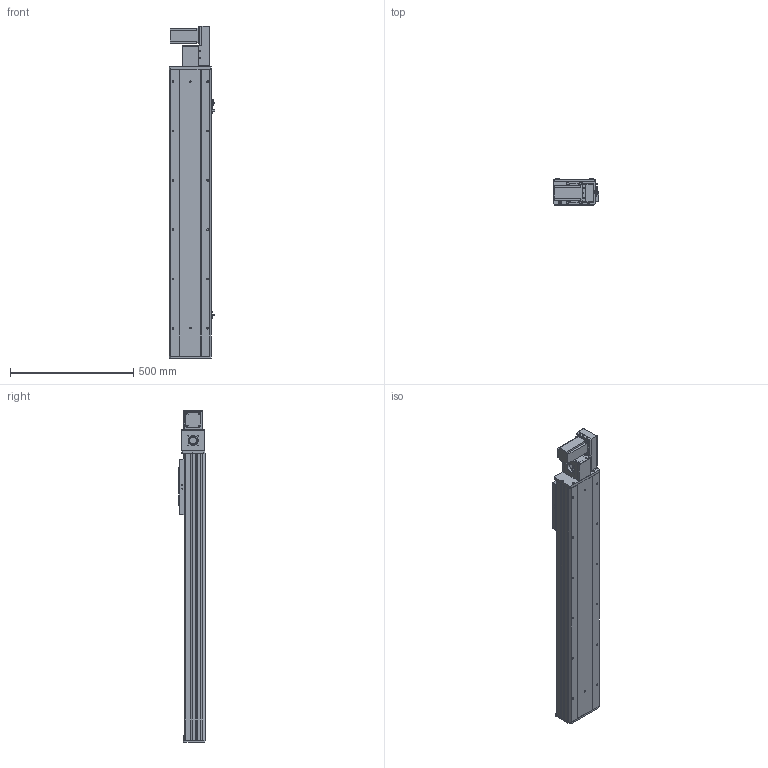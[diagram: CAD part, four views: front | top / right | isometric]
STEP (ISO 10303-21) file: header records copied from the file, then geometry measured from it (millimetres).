
FILE_DESCRIPTION (( 'STEP AP203' ), '1' );
FILE_NAME ('Y170CB-D105-S850-BR-P400W.STEP', '2020-02-19T09:04:21', ( '微软用户' ), ( '微软中国' ), 'SwSTEP 2.0', 'SolidWorks 2017', '' );
FILE_SCHEMA (( 'CONFIG_CONTROL_DESIGN' ));
Length unit declared in the file: millimetre
Products named in the file (17): 70B喘謫眊----; B-源倛裔啣; 17B-耜蚾蟀諉啣----; 0B-萇儂楊擘啣; san松下电机400不带刹车----; Y70俋欶BR----; 70CB-掛极-; --70CB --喘謫眊楊擘啣-; 70CB-耜裔啣-; 70C--詩湍揤踡え-; 70CB--耜裔; 70C-雄赽釱-奻-; 0C--雄赽釱俋欶-170; 70CB-詩湍--; Y100-135俋离換覜ん--; Y170CB-陔俋离換覜結え---; Y170CB-D105-S850-BR-P400W
Assembly tree (20 placements, depth 2):
  Y170CB-D105-S850-BR-P400W
    70B喘謫眊----
    B-源倛裔啣
    17B-耜蚾蟀諉啣----
    0B-萇儂楊擘啣
    san松下电机400不带刹车----
    Y70俋欶BR----
    70CB-掛极-
    --70CB --喘謫眊楊擘啣-
    70CB-耜裔啣-  x2
    70C--詩湍揤踡え-  x2
    70CB--耜裔
    70C-雄赽釱-奻-
    0C--雄赽釱俋欶-170
    70CB-詩湍--
    Y100-135俋离換覜ん--  x3
    Y170CB-陔俋离換覜結え---
Bounding box: 183.5 x 107 x 1347 mm (x, y, z)
Volume: 5942121.6 mm3; surface area: 2118531 mm2
Topology: 20 solids, 20 shells, 985 faces, 2633 edges, 1746 vertices
Faces by surface type: cylinder 499, plane 462, cone 24
Entity records: 31167 total; most frequent: CARTESIAN_POINT 5721, DIRECTION 5068, ORIENTED_EDGE 4748, EDGE_CURVE 2374, AXIS2_PLACEMENT_3D 1845, VERTEX_POINT 1576, LINE 1378, VECTOR 1378
